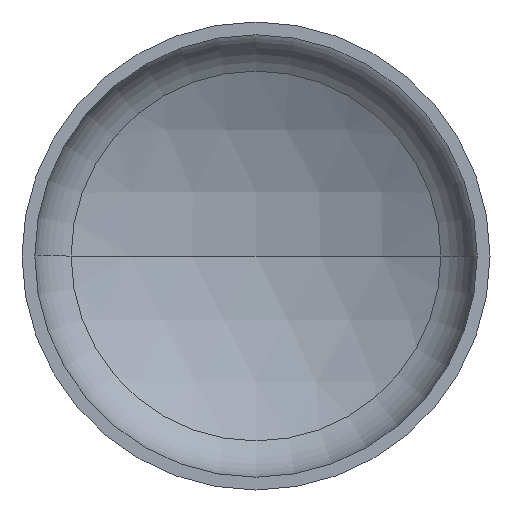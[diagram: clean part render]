
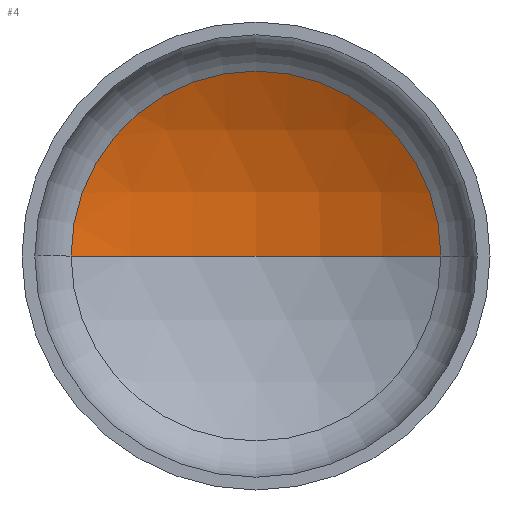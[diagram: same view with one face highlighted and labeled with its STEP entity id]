
A CAD part, front view. The second image highlights one B-rep face of the part: STEP entity #4.
In plain terms, the highlighted spherical face has radius 2400 mm.
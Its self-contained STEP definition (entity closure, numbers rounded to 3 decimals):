
#1 = AXIS2_PLACEMENT_3D ( 'NONE', #74, #284, #127 ) ;
#4 = ADVANCED_FACE ( 'NONE', ( #376 ), #172, .F. ) ;
#6 = ORIENTED_EDGE ( 'NONE', *, *, #374, .T. ) ;
#10 = AXIS2_PLACEMENT_3D ( 'NONE', #149, #95, #156 ) ;
#23 = EDGE_LOOP ( 'NONE', ( #27, #6, #145 ) ) ;
#24 = VERTEX_POINT ( 'NONE', #252 ) ;
#27 = ORIENTED_EDGE ( 'NONE', *, *, #362, .F. ) ;
#54 = CIRCLE ( 'NONE', #10, 2400. ) ;
#62 = AXIS2_PLACEMENT_3D ( 'NONE', #253, #294, #290 ) ;
#74 = CARTESIAN_POINT ( 'NONE',  ( 0., -1586.961, 0. ) ) ;
#95 = DIRECTION ( 'NONE',  ( 0., 0., 1. ) ) ;
#117 = DIRECTION ( 'NONE',  ( 1., 0., 0. ) ) ;
#126 = VERTEX_POINT ( 'NONE', #231 ) ;
#127 = DIRECTION ( 'NONE',  ( -1., 0., 0. ) ) ;
#145 = ORIENTED_EDGE ( 'NONE', *, *, #378, .T. ) ;
#149 = CARTESIAN_POINT ( 'NONE',  ( 0., -1586.961, 0. ) ) ;
#151 = VERTEX_POINT ( 'NONE', #218 ) ;
#156 = DIRECTION ( 'NONE',  ( 1., 0., 0. ) ) ;
#172 = SPHERICAL_SURFACE ( 'NONE', #62, 2400. ) ;
#194 = CARTESIAN_POINT ( 'NONE',  ( 0., 500.001, 0. ) ) ;
#218 = CARTESIAN_POINT ( 'NONE',  ( 1185.155, 500.001, 0. ) ) ;
#231 = CARTESIAN_POINT ( 'NONE',  ( 0., 813.039, 0. ) ) ;
#238 = AXIS2_PLACEMENT_3D ( 'NONE', #194, #369, #117 ) ;
#252 = CARTESIAN_POINT ( 'NONE',  ( -1185.155, 500.001, 0. ) ) ;
#253 = CARTESIAN_POINT ( 'NONE',  ( 0., -1586.961, 0. ) ) ;
#284 = DIRECTION ( 'NONE',  ( 0., 0., -1. ) ) ;
#288 = CIRCLE ( 'NONE', #238, 1185.155 ) ;
#290 = DIRECTION ( 'NONE',  ( -1., 0., 0. ) ) ;
#294 = DIRECTION ( 'NONE',  ( 0., 0., -1. ) ) ;
#299 = CIRCLE ( 'NONE', #1, 2400. ) ;
#362 = EDGE_CURVE ( 'NONE', #126, #24, #54, .T. ) ;
#369 = DIRECTION ( 'NONE',  ( 0., -1., 0. ) ) ;
#374 = EDGE_CURVE ( 'NONE', #126, #151, #299, .T. ) ;
#376 = FACE_OUTER_BOUND ( 'NONE', #23, .T. ) ;
#378 = EDGE_CURVE ( 'NONE', #151, #24, #288, .T. ) ;
